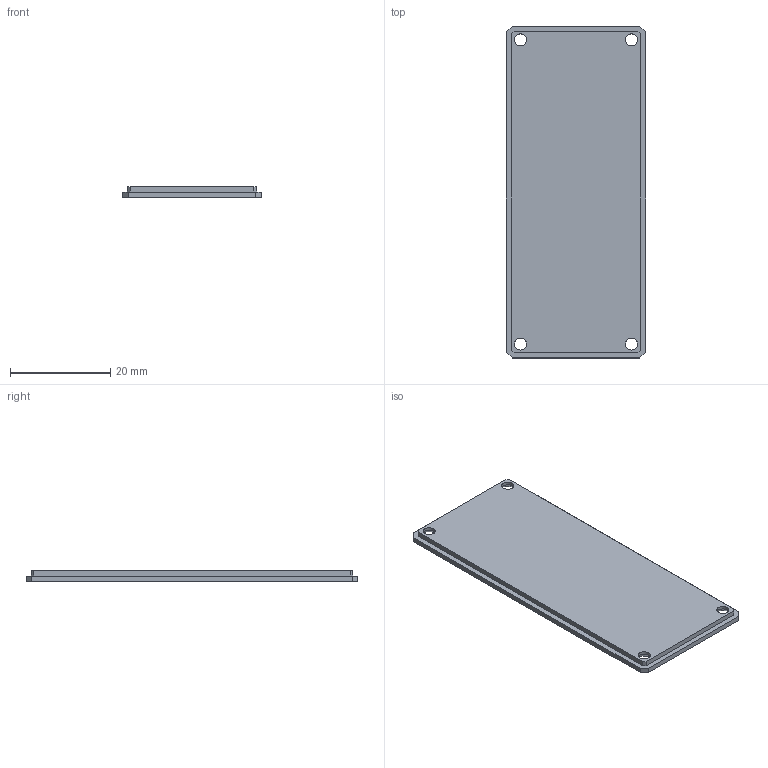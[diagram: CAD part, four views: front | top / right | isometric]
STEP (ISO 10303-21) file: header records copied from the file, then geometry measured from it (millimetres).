
FILE_DESCRIPTION(('FreeCAD Model'),'2;1');
FILE_NAME('Open CASCADE Shape Model','2025-06-07T00:09:20',(''),(''), 'Open CASCADE STEP processor 7.8','FreeCAD','Unknown');
FILE_SCHEMA(('AUTOMOTIVE_DESIGN { 1 0 10303 214 1 1 1 1 }'));
Length unit declared in the file: millimetre
Products named in the file (1): bottom
Bounding box: 27.75 x 66.25 x 2 mm (x, y, z)
Volume: 3412.3 mm3; surface area: 4045 mm2
Topology: 1 solids, 1 shells, 27 faces, 68 edges, 44 vertices
Faces by surface type: plane 19, cone 4, cylinder 4
Full cylindrical faces by diameter (mm): 2.4 x4
Entity records: 840 total; most frequent: CARTESIAN_POINT 140, DIRECTION 136, ORIENTED_EDGE 136, EDGE_CURVE 68, LINE 56, VECTOR 56, VERTEX_POINT 44, AXIS2_PLACEMENT_3D 40
